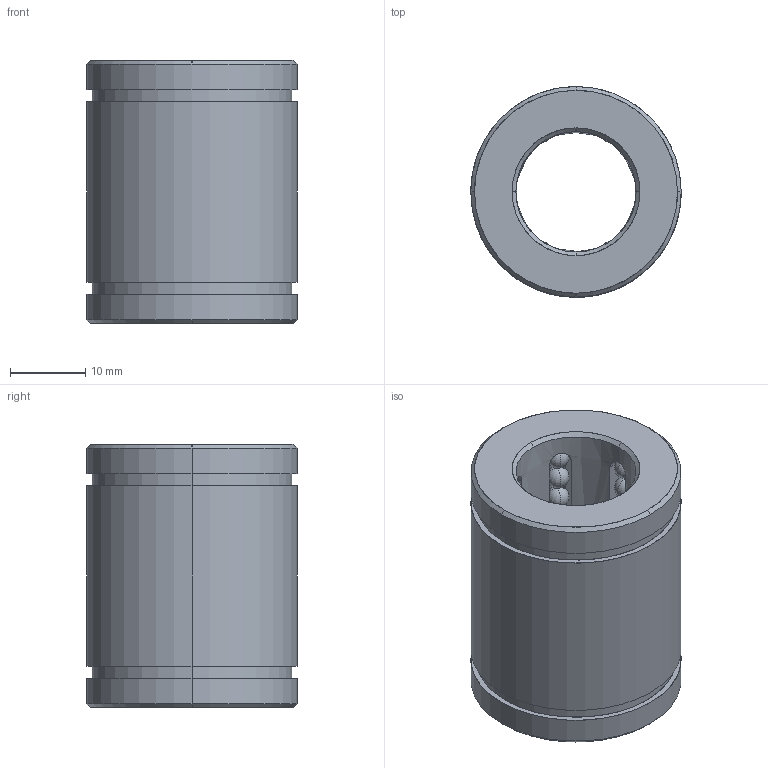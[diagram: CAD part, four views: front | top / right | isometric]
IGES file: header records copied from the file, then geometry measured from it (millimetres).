
Start section: START RECORD GO HERE.
Global section: file name: B8031635.igs; native system: DASSAULT SYSTEMES CATIA V5 R20 - www.3ds.com; preprocessor: CATIA Version 5 Release 20 ; author: Utente; organization: NB04-ASUS; date: 20200419.161755; units: millimetre
Bounding box: 28 x 28 x 35 mm (x, y, z)
Surface area: 8435 mm2 (no closed solid volume)
Topology: 0 solids, 0 shells, 280 faces, 1172 edges, 740 vertices
Faces by surface type: revolution 256, plane 24
